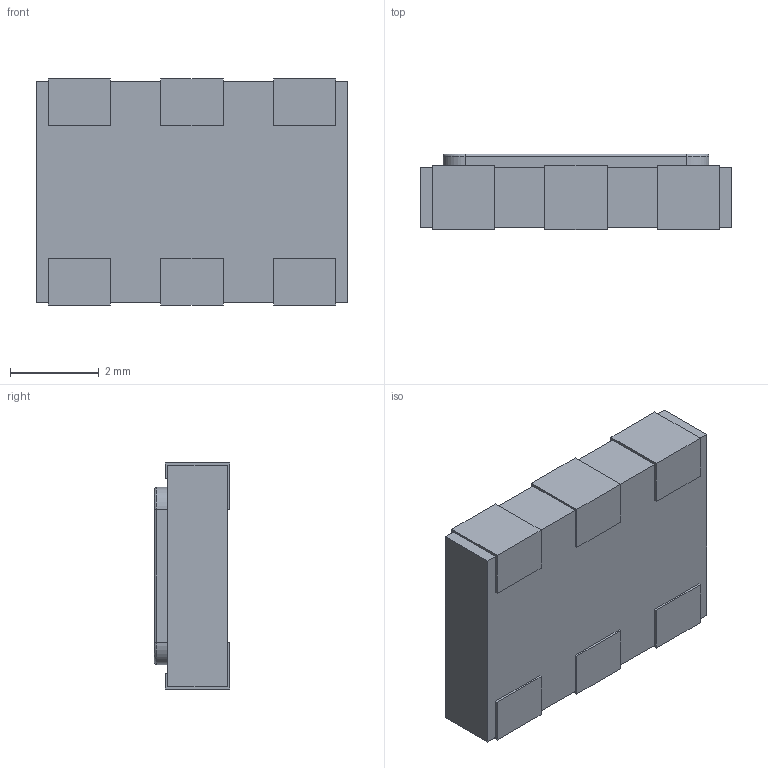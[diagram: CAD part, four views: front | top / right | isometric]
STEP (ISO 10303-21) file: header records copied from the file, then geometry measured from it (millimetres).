
FILE_DESCRIPTION (( 'STEP AP214' ), '1' );
FILE_NAME ( 'OSCSC254P700X500X170-6.STEP', '2014-04-11T12:31:19', ( '' ), ( '' ), 'FPX Expert 2013', 'PCB Libraries', '' );
FILE_SCHEMA (( 'AUTOMOTIVE_DESIGN' ));
Length unit declared in the file: millimetre
Products named in the file (1): OSCSC254P700X500X170-6
Bounding box: 7 x 1.7 x 5.1 mm (x, y, z)
Volume: 55.5 mm3; surface area: 156.5 mm2
Topology: 7 solids, 7 shells, 86 faces, 202 edges, 132 vertices
Faces by surface type: plane 72, cylinder 8, torus 6
Entity records: 2780 total; most frequent: CARTESIAN_POINT 421, ORIENTED_EDGE 404, DIRECTION 402, EDGE_CURVE 202, VECTOR 176, LINE 176, VERTEX_POINT 132, AXIS2_PLACEMENT_3D 113
